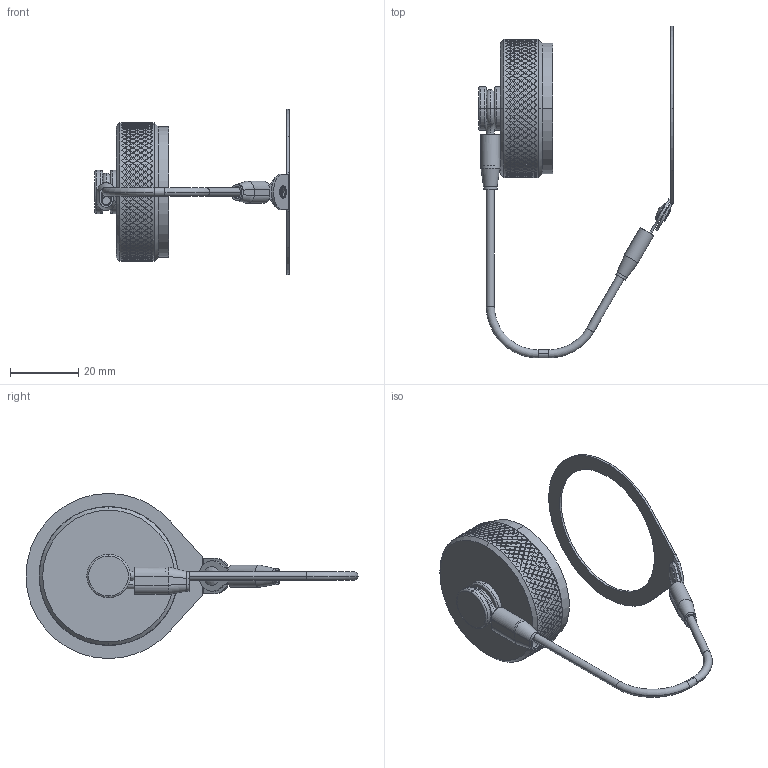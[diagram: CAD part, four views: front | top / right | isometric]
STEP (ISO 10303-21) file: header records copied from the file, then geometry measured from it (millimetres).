
FILE_DESCRIPTION (( 'STEP AP214' ), '1' );
FILE_NAME ('Q38DC-RJX-21-R0.STEP', '2026-04-22T20:32:10', ( '' ), ( '' ), 'SwSTEP 2.0', 'SolidWorks 2024', '' );
FILE_SCHEMA (( 'AUTOMOTIVE_DESIGN' ));
Length unit declared in the file: inch
Products named in the file (11): Q38-XX29-P_21R; SW-XRXX_SW-BR21; Q38-XX48-X_Q38-2148-X; HEAT SHRINK_HS-125-625S; LN-06-07-13_Q38DC-RKX-21; HEAT SHRINK_HS-250X625_SW-348; SW-349_SW-349; SW-348; Lanyard Assembly Q38_Q38DC-RJX-21; Q38DC-RJX-21-R0; SW-347
Assembly tree (10 placements, depth 3):
  Q38DC-RJX-21-R0
    Q38-XX48-X_Q38-2148-X
    Lanyard Assembly Q38_Q38DC-RJX-21
      LN-06-07-13_Q38DC-RKX-21
      SW-348
      HEAT SHRINK_HS-250X625_SW-348
      SW-347
      HEAT SHRINK_HS-125-625S
      SW-349_SW-349
      SW-XRXX_SW-BR21
    Q38-XX29-P_21R
Bounding box: 56.9 x 97.12 x 48.3 mm (x, y, z)
Volume: 10405 mm3; surface area: 12581.9 mm2
Topology: 9 solids, 9 shells, 3074 faces, 7589 edges, 5032 vertices
Faces by surface type: plane 2355, cylinder 669, torus 26, bspline 16, cone 6, sphere 2
Entity records: 91153 total; most frequent: CARTESIAN_POINT 31498, ORIENTED_EDGE 15178, DIRECTION 9304, EDGE_CURVE 7589, VERTEX_POINT 5032, EDGE_LOOP 3587, AXIS2_PLACEMENT_3D 3426, FACE_OUTER_BOUND 3074
